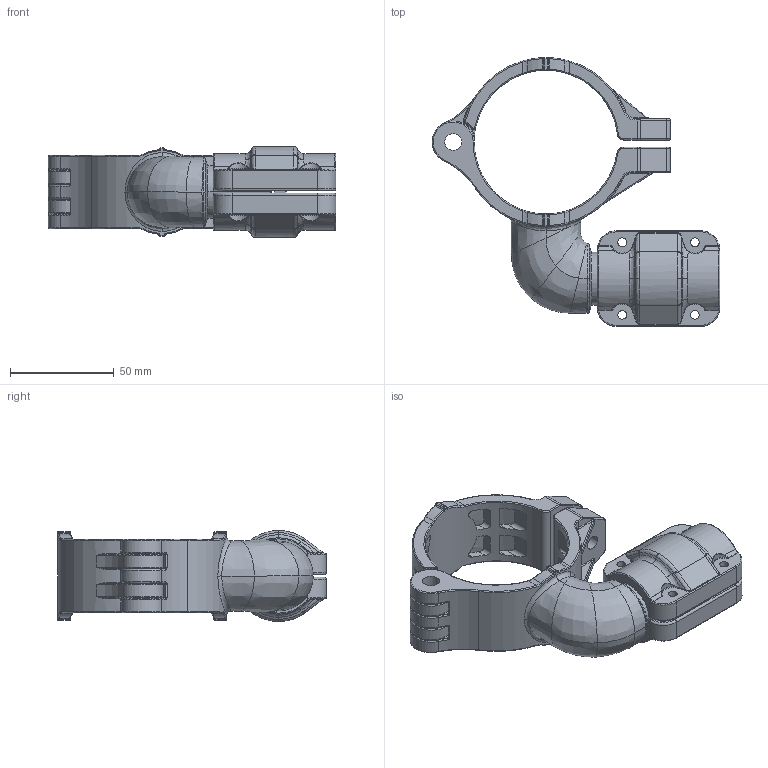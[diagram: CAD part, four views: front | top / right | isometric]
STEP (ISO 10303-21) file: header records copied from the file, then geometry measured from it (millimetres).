
FILE_DESCRIPTION((''),'2;1');
FILE_NAME('2015621099_ASM_3_ASM','2017-05-15T',('Administrator'),(''),'PRO/ENGINEER BY PARAMETRIC TECHNOLOGY CORPORATION, 2009360','PRO/ENGINEER BY PARAMETRIC TECHNOLOGY CORPORATION, 2009360','');
FILE_SCHEMA(('AUTOMOTIVE_DESIGN_CC2 { 1 2 10303 214 -1 1 5 2 }'));
Length unit declared in the file: millimetre
Products named in the file (8): 2017_6210_00_00_1_1; 2016_6210_00_01_1_2; 2016621000_ASM_3_ASM_1_ASM; 2016621000_ASM_ASM_1_ASM; 201520020000_23_1; 201520020001_10_1; 2015200200_ASM_1_ASM; 2015621099_ASM_3_ASM
Assembly tree (7 placements, depth 4):
  2015621099_ASM_3_ASM
    2016621000_ASM_ASM_1_ASM
      2016621000_ASM_3_ASM_1_ASM
        2017_6210_00_00_1_1
        2016_6210_00_01_1_2
    2015200200_ASM_1_ASM
      201520020000_23_1
      201520020001_10_1
Bounding box: 138.57 x 129.45 x 43.8 mm (x, y, z)
Volume: 141076.2 mm3; surface area: 59771.5 mm2
Topology: 4 solids, 4 shells, 933 faces, 2291 edges, 1360 vertices
Faces by surface type: cylinder 337, bspline 277, torus 159, plane 132, sphere 24, cone 4
Entity records: 48590 total; most frequent: CARTESIAN_POINT 21733, ORIENTED_EDGE 4534, DIRECTION 3697, PRESENTATION_STYLE_ASSIGNMENT 2271, STYLED_ITEM 2271, CURVE_STYLE 2267, EDGE_CURVE 2267, AXIS2_PLACEMENT_3D 1552
